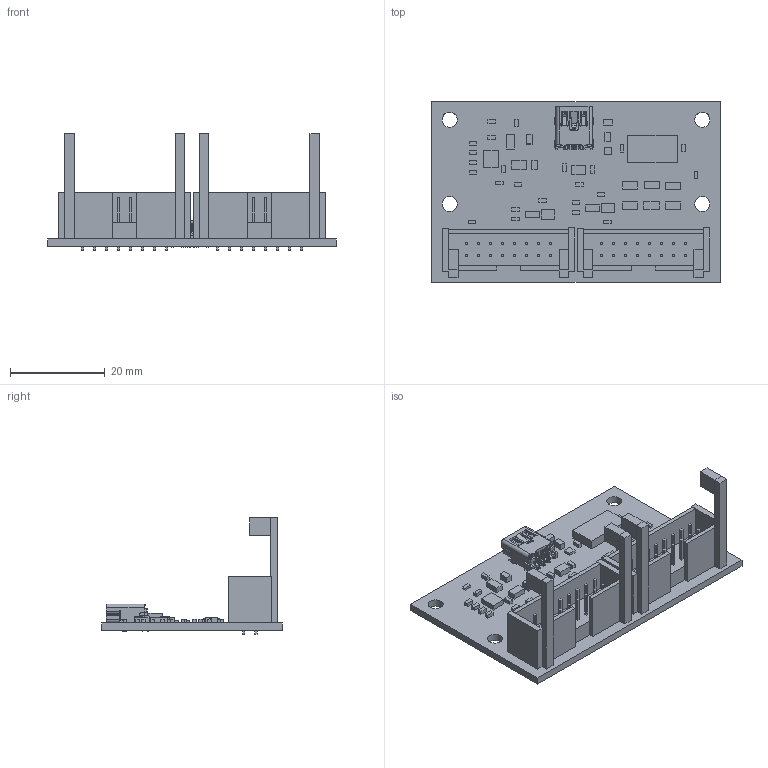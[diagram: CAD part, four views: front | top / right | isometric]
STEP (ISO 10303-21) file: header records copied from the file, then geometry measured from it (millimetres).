
FILE_DESCRIPTION(('Open CASCADE Model'),'2;1');
FILE_NAME('Open CASCADE Shape Model','2010-10-28T09:44:17',('Author'),( 'Open CASCADE'),'Open CASCADE STEP processor 6.2','Open CASCADE 6.2' ,'Unknown');
FILE_SCHEMA(('AUTOMOTIVE_DESIGN { 1 0 10303 214 1 1 1 1 }'));
Length unit declared in the file: millimetre
Products named in the file (99): PCB; Board; C1; 478789824; Extruded; C2; 478788672; C3; C5; C6; C7; C13; C14; C10; 478791744; C11; C12; C16; 478784832; D1; 845314848; D2; J1; 010897100; Open CASCADE STEP translator 6.2 177.16.1.1; Open CASCADE STEP translator 6.2 177.16.1.2; 478801472; 948962560; 948962816; 948961792; 948962688; 948966272; J2; J6; 548190519; Open CASCADE STEP translator 6.2 177.18.1.1; Open CASCADE STEP translator 6.2 177.18.1.2; L2; 948966144; Q1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
Assembly tree (143 placements, depth 4):
  PCB
    Board
    C1
      478789824
        Extruded
    C2
      478788672
        Extruded
    C3
      478789824
        Extruded
    C5
      478788672
        Extruded
    C6
      478789824
        Extruded
    C7
      478788672
        Extruded
    C13
      478788672
        Extruded
    C14
      478788672
        Extruded
    C10
      478791744
        Extruded
    C11
      478791744
        Extruded
    C12
      478791744
        Extruded
    C16
      478784832
        Extruded
    D1
      845314848
        Extruded
    D2
      845314848
        Extruded
    J1
      010897100  x2
        Open CASCADE STEP translator 6.2 177.16.1.1
        Open CASCADE STEP translator 6.2 177.16.1.2
      478801472  x2
        Extruded
      948962560  x2
        Extruded
      948962816  x2
        Extruded
      948961792
        Extruded
      948962688  x2
        Extruded
      948966272
        Extruded
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Bounding box: 60.96 x 38.1 x 24.54 mm (x, y, z)
Volume: 7462.2 mm3; surface area: 13079.4 mm2
Topology: 70 solids, 70 shells, 1527 faces, 3752 edges, 2528 vertices
Faces by surface type: plane 1392, cylinder 109, bspline 18, cone 8
Full cylindrical faces by diameter (mm): 0.8 x5, 0.889 x32, 3.175 x4
Entity records: 56651 total; most frequent: CARTESIAN_POINT 13565, DIRECTION 7658, LINE 5282, VECTOR 5282, ORIENTED_EDGE 4080, PCURVE 4080, DEFINITIONAL_REPRESENTATION 4080, EDGE_CURVE 2040
